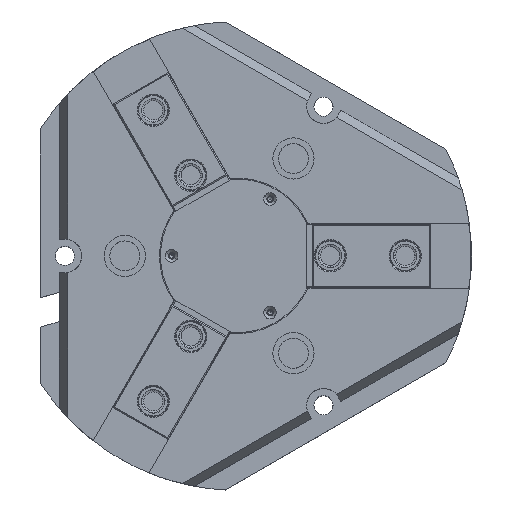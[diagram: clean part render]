
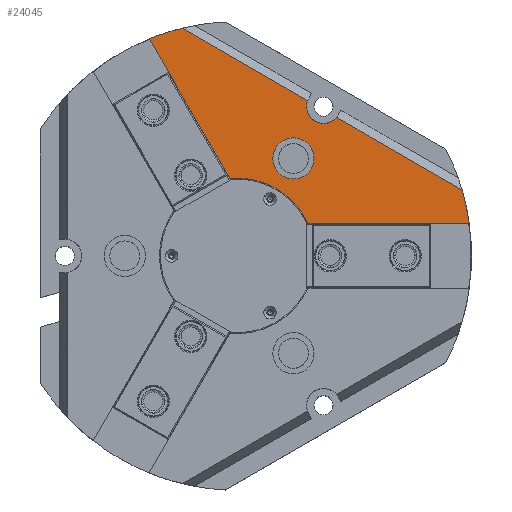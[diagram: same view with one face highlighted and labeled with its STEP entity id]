
A CAD part, top view. The second image highlights one B-rep face of the part: STEP entity #24045.
In plain terms, the highlighted planar face has unit normal (0, 0, 1) as drawn and (0, 1, 0) by its records, which use the part's own axes.
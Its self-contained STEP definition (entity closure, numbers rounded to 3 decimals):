
#213 = DIRECTION ( 'NONE',  ( -1., 0., 0. ) ) ;
#262 = VERTEX_POINT ( 'NONE', #15016 ) ;
#547 = EDGE_LOOP ( 'NONE', ( #19601, #22756, #9395, #8688, #16590, #12550, #11194, #18082 ) ) ;
#726 = LINE ( 'NONE', #19792, #9888 ) ;
#842 = EDGE_CURVE ( 'NONE', #9672, #5653, #8603, .T. ) ;
#864 = DIRECTION ( 'NONE',  ( 0., 0., -1. ) ) ;
#868 = LINE ( 'NONE', #4587, #17166 ) ;
#869 = DIRECTION ( 'NONE',  ( 0., -1., 0. ) ) ;
#897 = CARTESIAN_POINT ( 'NONE',  ( 0., 88., 0. ) ) ;
#1088 = CARTESIAN_POINT ( 'NONE',  ( -8.874, 88., 90.5 ) ) ;
#1336 = AXIS2_PLACEMENT_3D ( 'NONE', #12775, #1404, #14661 ) ;
#1404 = DIRECTION ( 'NONE',  ( 0., 1., 0. ) ) ;
#1552 = CARTESIAN_POINT ( 'NONE',  ( 125., 88., 90.5 ) ) ;
#3671 = ORIENTED_EDGE ( 'NONE', *, *, #22998, .F. ) ;
#3908 = FACE_OUTER_BOUND ( 'NONE', #547, .T. ) ;
#4142 = EDGE_CURVE ( 'NONE', #23163, #6522, #16510, .T. ) ;
#4348 = VECTOR ( 'NONE', #8657, 1000. ) ;
#4488 = CARTESIAN_POINT ( 'NONE',  ( 0., 88., 0. ) ) ;
#4587 = CARTESIAN_POINT ( 'NONE',  ( 0., 88., 90.5 ) ) ;
#4737 = CARTESIAN_POINT ( 'NONE',  ( -86.225, 88., 90.5 ) ) ;
#4771 = VERTEX_POINT ( 'NONE', #6455 ) ;
#5251 = DIRECTION ( 'NONE',  ( 0., -1., 0. ) ) ;
#5302 = EDGE_CURVE ( 'NONE', #13670, #262, #9598, .T. ) ;
#5653 = VERTEX_POINT ( 'NONE', #16585 ) ;
#5906 = EDGE_CURVE ( 'NONE', #15706, #23163, #23475, .T. ) ;
#6074 = CIRCLE ( 'NONE', #1336, 11. ) ;
#6455 = CARTESIAN_POINT ( 'NONE',  ( 98.592, 88., 76.841 ) ) ;
#6522 = VERTEX_POINT ( 'NONE', #1088 ) ;
#6749 = CARTESIAN_POINT ( 'NONE',  ( -24.063, 88., 33.811 ) ) ;
#6795 = DIRECTION ( 'NONE',  ( 0., 0., -1. ) ) ;
#6868 = DIRECTION ( 'NONE',  ( 0., 1., 0. ) ) ;
#6953 = CARTESIAN_POINT ( 'NONE',  ( 0., 88., 0. ) ) ;
#7062 = EDGE_CURVE ( 'NONE', #14605, #21766, #19378, .T. ) ;
#7497 = CARTESIAN_POINT ( 'NONE',  ( 0., 88., 49. ) ) ;
#7669 = CARTESIAN_POINT ( 'NONE',  ( 8.874, 88., 90.5 ) ) ;
#8564 = CARTESIAN_POINT ( 'NONE',  ( 24.063, 88., 33.811 ) ) ;
#8603 = CIRCLE ( 'NONE', #11241, 125. ) ;
#8604 = AXIS2_PLACEMENT_3D ( 'NONE', #17979, #17962, #17902 ) ;
#8657 = DIRECTION ( 'NONE',  ( 0.866, 0., 0.5 ) ) ;
#8688 = ORIENTED_EDGE ( 'NONE', *, *, #22323, .F. ) ;
#9032 = FACE_BOUND ( 'NONE', #22056, .T. ) ;
#9395 = ORIENTED_EDGE ( 'NONE', *, *, #14020, .F. ) ;
#9457 = EDGE_CURVE ( 'NONE', #5653, #13670, #726, .T. ) ;
#9598 = CIRCLE ( 'NONE', #17158, 41.5 ) ;
#9672 = VERTEX_POINT ( 'NONE', #4737 ) ;
#9888 = VECTOR ( 'NONE', #18887, 1000. ) ;
#9895 = DIRECTION ( 'NONE',  ( 0., -1., 0. ) ) ;
#11194 = ORIENTED_EDGE ( 'NONE', *, *, #842, .F. ) ;
#11241 = AXIS2_PLACEMENT_3D ( 'NONE', #4488, #9895, #18048 ) ;
#11690 = AXIS2_PLACEMENT_3D ( 'NONE', #897, #869, #864 ) ;
#11816 = EDGE_CURVE ( 'NONE', #6522, #9672, #868, .T. ) ;
#12550 = ORIENTED_EDGE ( 'NONE', *, *, #9457, .F. ) ;
#12775 = CARTESIAN_POINT ( 'NONE',  ( 0., 88., 60. ) ) ;
#12800 = DIRECTION ( 'NONE',  ( 0., 0., 1. ) ) ;
#12804 = DIRECTION ( 'NONE',  ( 0., 1., 0. ) ) ;
#12822 = CARTESIAN_POINT ( 'NONE',  ( 0., 88., 60. ) ) ;
#13670 = VERTEX_POINT ( 'NONE', #6749 ) ;
#14020 = EDGE_CURVE ( 'NONE', #4771, #15706, #20690, .T. ) ;
#14471 = LINE ( 'NONE', #8564, #4348 ) ;
#14605 = VERTEX_POINT ( 'NONE', #7497 ) ;
#14661 = DIRECTION ( 'NONE',  ( 0., 0., 1. ) ) ;
#15016 = CARTESIAN_POINT ( 'NONE',  ( 24.063, 88., 33.811 ) ) ;
#15706 = VERTEX_POINT ( 'NONE', #18580 ) ;
#16510 = CIRCLE ( 'NONE', #8604, 9. ) ;
#16585 = CARTESIAN_POINT ( 'NONE',  ( -98.592, 88., 76.841 ) ) ;
#16590 = ORIENTED_EDGE ( 'NONE', *, *, #5302, .F. ) ;
#16617 = CARTESIAN_POINT ( 'NONE',  ( 0., 88., 125. ) ) ;
#17158 = AXIS2_PLACEMENT_3D ( 'NONE', #6953, #6868, #6795 ) ;
#17166 = VECTOR ( 'NONE', #18104, 1000. ) ;
#17497 = AXIS2_PLACEMENT_3D ( 'NONE', #16617, #5251, #18509 ) ;
#17902 = DIRECTION ( 'NONE',  ( 0., 0., 1. ) ) ;
#17962 = DIRECTION ( 'NONE',  ( 0., 1., 0. ) ) ;
#17979 = CARTESIAN_POINT ( 'NONE',  ( 0., 88., 92. ) ) ;
#18048 = DIRECTION ( 'NONE',  ( 0., 0., -1. ) ) ;
#18068 = AXIS2_PLACEMENT_3D ( 'NONE', #12822, #12804, #12800 ) ;
#18082 = ORIENTED_EDGE ( 'NONE', *, *, #11816, .F. ) ;
#18104 = DIRECTION ( 'NONE',  ( -1., 0., 0. ) ) ;
#18509 = DIRECTION ( 'NONE',  ( 0., 0., -1. ) ) ;
#18580 = CARTESIAN_POINT ( 'NONE',  ( 86.225, 88., 90.5 ) ) ;
#18887 = DIRECTION ( 'NONE',  ( 0.866, 0., -0.5 ) ) ;
#19378 = CIRCLE ( 'NONE', #18068, 11. ) ;
#19601 = ORIENTED_EDGE ( 'NONE', *, *, #4142, .F. ) ;
#19792 = CARTESIAN_POINT ( 'NONE',  ( -98.592, 88., 76.841 ) ) ;
#20298 = PLANE ( 'NONE',  #17497 ) ;
#20690 = CIRCLE ( 'NONE', #11690, 125. ) ;
#21766 = VERTEX_POINT ( 'NONE', #21982 ) ;
#21982 = CARTESIAN_POINT ( 'NONE',  ( 0., 88., 71. ) ) ;
#22056 = EDGE_LOOP ( 'NONE', ( #3671, #23697 ) ) ;
#22323 = EDGE_CURVE ( 'NONE', #262, #4771, #14471, .T. ) ;
#22756 = ORIENTED_EDGE ( 'NONE', *, *, #5906, .F. ) ;
#22998 = EDGE_CURVE ( 'NONE', #21766, #14605, #6074, .T. ) ;
#23163 = VERTEX_POINT ( 'NONE', #7669 ) ;
#23475 = LINE ( 'NONE', #1552, #23514 ) ;
#23514 = VECTOR ( 'NONE', #213, 1000. ) ;
#23697 = ORIENTED_EDGE ( 'NONE', *, *, #7062, .F. ) ;
#24045 = ADVANCED_FACE ( 'NONE', ( #3908, #9032 ), #20298, .F. ) ;
